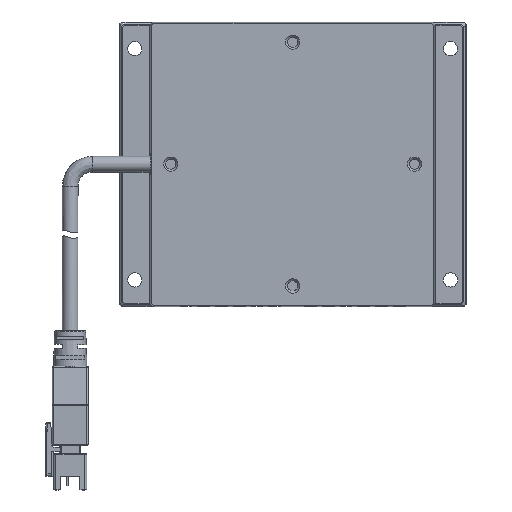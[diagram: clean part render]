
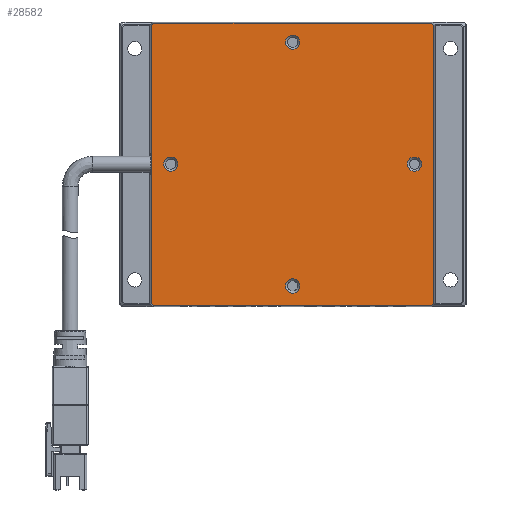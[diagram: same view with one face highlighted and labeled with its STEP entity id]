
A CAD part, top view. The second image highlights one B-rep face of the part: STEP entity #28582.
In plain terms, the highlighted planar face has unit normal (0, 0, 1).
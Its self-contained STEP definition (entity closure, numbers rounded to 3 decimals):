
#29 = CARTESIAN_POINT ( 'NONE',  ( 31.7, 31.2, 21.44 ) ) ;
#331 = CARTESIAN_POINT ( 'NONE',  ( 31.2, -31.7, 21.44 ) ) ;
#419 = LINE ( 'NONE', #21511, #11344 ) ;
#629 = CARTESIAN_POINT ( 'NONE',  ( 27.4, 0., 21.44 ) ) ;
#716 = FACE_BOUND ( 'NONE', #8723, .T. ) ;
#1003 = DIRECTION ( 'NONE',  ( 1., 0., 0. ) ) ;
#1934 = AXIS2_PLACEMENT_3D ( 'NONE', #30758, #19992, #1003 ) ;
#2451 = DIRECTION ( 'NONE',  ( -1., 0., 0. ) ) ;
#2550 = EDGE_CURVE ( 'NONE', #8413, #8413, #21116, .T. ) ;
#3003 = EDGE_CURVE ( 'NONE', #6501, #25860, #10183, .T. ) ;
#3564 = CARTESIAN_POINT ( 'NONE',  ( -31.7, -31.2, 21.44 ) ) ;
#3622 = VERTEX_POINT ( 'NONE', #21746 ) ;
#3835 = EDGE_LOOP ( 'NONE', ( #20425, #3921, #6085, #19540, #22844, #5255, #6588, #15245 ) ) ;
#3921 = ORIENTED_EDGE ( 'NONE', *, *, #28271, .T. ) ;
#4410 = DIRECTION ( 'NONE',  ( -0.707, 0.707, 0. ) ) ;
#4495 = CARTESIAN_POINT ( 'NONE',  ( 31.7, 31.7, 21.44 ) ) ;
#5255 = ORIENTED_EDGE ( 'NONE', *, *, #22083, .T. ) ;
#5292 = CARTESIAN_POINT ( 'NONE',  ( 0., 27.4, 21.44 ) ) ;
#5691 = DIRECTION ( 'NONE',  ( 0., 1., 0. ) ) ;
#5764 = DIRECTION ( 'NONE',  ( 0.707, 0.707, 0. ) ) ;
#6085 = ORIENTED_EDGE ( 'NONE', *, *, #21509, .T. ) ;
#6501 = VERTEX_POINT ( 'NONE', #15879 ) ;
#6539 = EDGE_CURVE ( 'NONE', #33184, #33184, #21890, .T. ) ;
#6588 = ORIENTED_EDGE ( 'NONE', *, *, #3003, .T. ) ;
#6766 = VERTEX_POINT ( 'NONE', #23419 ) ;
#7245 = LINE ( 'NONE', #7945, #27860 ) ;
#7330 = DIRECTION ( 'NONE',  ( 1., 0., 0. ) ) ;
#7817 = EDGE_CURVE ( 'NONE', #21662, #6766, #29188, .T. ) ;
#7945 = CARTESIAN_POINT ( 'NONE',  ( -31.7, 31.7, 21.44 ) ) ;
#8008 = DIRECTION ( 'NONE',  ( 0., 0., 1. ) ) ;
#8135 = CIRCLE ( 'NONE', #24318, 1.6 ) ;
#8309 = DIRECTION ( 'NONE',  ( 0., -1., 0. ) ) ;
#8413 = VERTEX_POINT ( 'NONE', #32556 ) ;
#8442 = CARTESIAN_POINT ( 'NONE',  ( -25.8, 0., 21.44 ) ) ;
#8656 = DIRECTION ( 'NONE',  ( 0., 0., 1. ) ) ;
#8723 = EDGE_LOOP ( 'NONE', ( #18141 ) ) ;
#8972 = CIRCLE ( 'NONE', #1934, 1.6 ) ;
#9341 = VECTOR ( 'NONE', #5691, 1000. ) ;
#9719 = CARTESIAN_POINT ( 'NONE',  ( 31.2, 31.7, 21.44 ) ) ;
#10183 = LINE ( 'NONE', #27099, #9341 ) ;
#10560 = ORIENTED_EDGE ( 'NONE', *, *, #30974, .F. ) ;
#11344 = VECTOR ( 'NONE', #5764, 1000. ) ;
#11893 = PLANE ( 'NONE',  #28875 ) ;
#12006 = AXIS2_PLACEMENT_3D ( 'NONE', #629, #8656, #22011 ) ;
#12536 = DIRECTION ( 'NONE',  ( 1., 0., 0. ) ) ;
#12579 = VECTOR ( 'NONE', #12536, 1000. ) ;
#12793 = VECTOR ( 'NONE', #31538, 1000. ) ;
#12974 = DIRECTION ( 'NONE',  ( -0.707, -0.707, 0. ) ) ;
#12996 = EDGE_CURVE ( 'NONE', #6766, #26404, #26917, .T. ) ;
#13692 = CARTESIAN_POINT ( 'NONE',  ( 1.6, -27.4, 21.44 ) ) ;
#14338 = VERTEX_POINT ( 'NONE', #16112 ) ;
#14466 = ORIENTED_EDGE ( 'NONE', *, *, #6539, .F. ) ;
#15143 = CARTESIAN_POINT ( 'NONE',  ( -31.2, 31.7, 21.44 ) ) ;
#15207 = EDGE_LOOP ( 'NONE', ( #10560 ) ) ;
#15245 = ORIENTED_EDGE ( 'NONE', *, *, #34701, .T. ) ;
#15415 = FACE_BOUND ( 'NONE', #28424, .T. ) ;
#15879 = CARTESIAN_POINT ( 'NONE',  ( 31.7, -31.2, 21.44 ) ) ;
#16112 = CARTESIAN_POINT ( 'NONE',  ( -31.7, 31.2, 21.44 ) ) ;
#16170 = AXIS2_PLACEMENT_3D ( 'NONE', #5292, #8008, #29533 ) ;
#17272 = DIRECTION ( 'NONE',  ( 0., 0., -1. ) ) ;
#17882 = EDGE_CURVE ( 'NONE', #18835, #18835, #8135, .T. ) ;
#18141 = ORIENTED_EDGE ( 'NONE', *, *, #2550, .F. ) ;
#18835 = VERTEX_POINT ( 'NONE', #8442 ) ;
#19203 = FACE_BOUND ( 'NONE', #15207, .T. ) ;
#19292 = CARTESIAN_POINT ( 'NONE',  ( 1.6, 27.4, 21.44 ) ) ;
#19540 = ORIENTED_EDGE ( 'NONE', *, *, #7817, .T. ) ;
#19992 = DIRECTION ( 'NONE',  ( 0., 0., 1. ) ) ;
#20425 = ORIENTED_EDGE ( 'NONE', *, *, #27175, .T. ) ;
#21059 = CARTESIAN_POINT ( 'NONE',  ( -27.4, 0., 21.44 ) ) ;
#21116 = CIRCLE ( 'NONE', #12006, 1.6 ) ;
#21184 = DIRECTION ( 'NONE',  ( 0., 0., 1. ) ) ;
#21509 = EDGE_CURVE ( 'NONE', #14338, #21662, #7245, .T. ) ;
#21511 = CARTESIAN_POINT ( 'NONE',  ( 31.7, -31.2, 21.44 ) ) ;
#21662 = VERTEX_POINT ( 'NONE', #3564 ) ;
#21746 = CARTESIAN_POINT ( 'NONE',  ( 31.2, 31.7, 21.44 ) ) ;
#21773 = ORIENTED_EDGE ( 'NONE', *, *, #17882, .F. ) ;
#21890 = CIRCLE ( 'NONE', #16170, 1.6 ) ;
#21930 = VECTOR ( 'NONE', #4410, 1000. ) ;
#22011 = DIRECTION ( 'NONE',  ( 1., 0., 0. ) ) ;
#22083 = EDGE_CURVE ( 'NONE', #26404, #6501, #419, .T. ) ;
#22844 = ORIENTED_EDGE ( 'NONE', *, *, #12996, .T. ) ;
#23220 = VECTOR ( 'NONE', #23533, 1000. ) ;
#23360 = VERTEX_POINT ( 'NONE', #15143 ) ;
#23419 = CARTESIAN_POINT ( 'NONE',  ( -31.2, -31.7, 21.44 ) ) ;
#23533 = DIRECTION ( 'NONE',  ( -1., 0., 0. ) ) ;
#24193 = CARTESIAN_POINT ( 'NONE',  ( -31.7, 31.2, 21.44 ) ) ;
#24318 = AXIS2_PLACEMENT_3D ( 'NONE', #21059, #21184, #7330 ) ;
#25619 = VECTOR ( 'NONE', #12974, 1000. ) ;
#25860 = VERTEX_POINT ( 'NONE', #29 ) ;
#26404 = VERTEX_POINT ( 'NONE', #331 ) ;
#26917 = LINE ( 'NONE', #31259, #12579 ) ;
#27099 = CARTESIAN_POINT ( 'NONE',  ( 31.7, 31.7, 21.44 ) ) ;
#27175 = EDGE_CURVE ( 'NONE', #3622, #23360, #28710, .T. ) ;
#27860 = VECTOR ( 'NONE', #8309, 1000. ) ;
#28081 = FACE_OUTER_BOUND ( 'NONE', #3835, .T. ) ;
#28271 = EDGE_CURVE ( 'NONE', #23360, #14338, #28999, .T. ) ;
#28424 = EDGE_LOOP ( 'NONE', ( #14466 ) ) ;
#28477 = FACE_BOUND ( 'NONE', #34712, .T. ) ;
#28582 = ADVANCED_FACE ( 'NONE', ( #716, #28477, #19203, #15415, #28081 ), #11893, .F. ) ;
#28710 = LINE ( 'NONE', #4495, #23220 ) ;
#28875 = AXIS2_PLACEMENT_3D ( 'NONE', #30853, #17272, #2451 ) ;
#28999 = LINE ( 'NONE', #24193, #25619 ) ;
#29113 = LINE ( 'NONE', #9719, #21930 ) ;
#29188 = LINE ( 'NONE', #34580, #12793 ) ;
#29533 = DIRECTION ( 'NONE',  ( 1., 0., 0. ) ) ;
#30758 = CARTESIAN_POINT ( 'NONE',  ( 0., -27.4, 21.44 ) ) ;
#30853 = CARTESIAN_POINT ( 'NONE',  ( 0., 0., 21.44 ) ) ;
#30974 = EDGE_CURVE ( 'NONE', #34023, #34023, #8972, .T. ) ;
#31259 = CARTESIAN_POINT ( 'NONE',  ( 31.7, -31.7, 21.44 ) ) ;
#31538 = DIRECTION ( 'NONE',  ( 0.707, -0.707, 0. ) ) ;
#32556 = CARTESIAN_POINT ( 'NONE',  ( 29., 0., 21.44 ) ) ;
#33184 = VERTEX_POINT ( 'NONE', #19292 ) ;
#34023 = VERTEX_POINT ( 'NONE', #13692 ) ;
#34580 = CARTESIAN_POINT ( 'NONE',  ( -31.2, -31.7, 21.44 ) ) ;
#34701 = EDGE_CURVE ( 'NONE', #25860, #3622, #29113, .T. ) ;
#34712 = EDGE_LOOP ( 'NONE', ( #21773 ) ) ;
